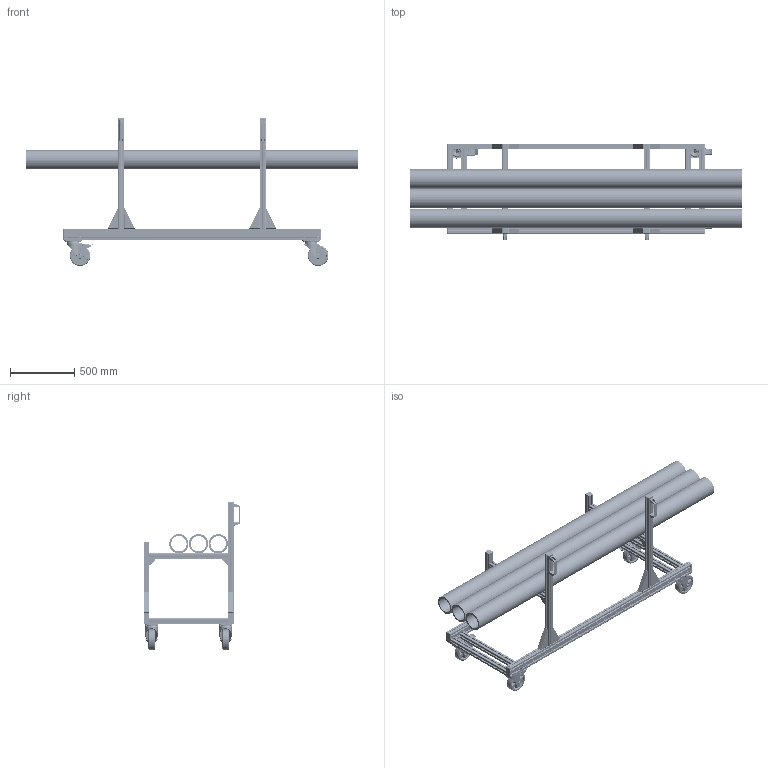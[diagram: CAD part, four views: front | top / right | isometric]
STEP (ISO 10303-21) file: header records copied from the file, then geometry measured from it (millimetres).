
FILE_DESCRIPTION(('STEP AP242'),'1');
FILE_NAME('ALD_CGL_200-70_060.stp','2026-01-14T13:58:10',(' '),(' '),'Spatial InterOp 3D',' ',' ');
FILE_SCHEMA(('AP242_MANAGED_MODEL_BASED_3D_ENGINEERING_MIM_LF {1 0 10303 442 1 1 4}'));
Length unit declared in the file: millimetre
Products named in the file (45): ALD_CGL_200-70_060; Pièce Jean-Baptiste MARTIN 1; M6-16 - DIN912; 45x45 - noir; Equerre 40 x 80x160; Cache équerre 40 x 80x160; Vis; Rondelle; Poignée standard - 152mm; Equerre 45/45; 45x45L; M8-20 - DIN 933 - Zn; 08 DIN 6798A - Zn; 08 - DIN125A; 45x90 - noir; M12-55 - DIN912 - Zn; orientable Ø160; Roue Ø160; Chape à platine Ø160 - Zn; orientable freinée Ø160; Chape à platine freinée Ø160 - Zn; 45x90L
Assembly tree (119 placements, depth 4):
  ALD_CGL_200-70_060
    Pièce Jean-Baptiste MARTIN 1
    M6-16 - DIN912  x4
    45x45 - noir  x4
    Equerre 40 x 80x160  x8
      Cache équerre 40 x 80x160
      Vis
      Vis
      Vis
      Vis
      Rondelle
      Rondelle
      Rondelle
      Rondelle
      Equerre 40 x 80x160
    Poignée standard - 152mm  x2
    Equerre 45/45  x4
    45x45L
    45x45L
    45x45L
    45x45L
    45x45L
    45x45L
    M8-20 - DIN 933 - Zn  x16
    08 DIN 6798A - Zn  x16
    08 - DIN125A  x16
    45x90 - noir  x4
    M12-55 - DIN912 - Zn  x8
    orientable Ø160  x2
      Roue Ø160
      Chape à platine Ø160 - Zn
        Chape à platine Ø160 - Zn
        Chape à platine Ø160 - Zn
    orientable freinée Ø160  x2
      Roue Ø160
      Chape à platine freinée Ø160 - Zn
        Chape à platine freinée Ø160 - Zn
        Chape à platine freinée Ø160 - Zn
        Chape à platine freinée Ø160 - Zn
        Chape à platine freinée Ø160 - Zn
    45x45L
    45x45L
    45x45L
    45x45L
    45x90L
    45x90L
Bounding box: 2580 x 753.42 x 1148.27 mm (x, y, z)
Volume: 61268844.4 mm3; surface area: 16176056.8 mm2
Topology: 185 solids, 185 shells, 15550 faces, 41288 edges, 26260 vertices
Faces by surface type: plane 7714, cylinder 5420, cone 866, torus 600, sphere 554, bspline 396
Full cylindrical faces by diameter (mm): 4 x8, 5 x8, 5.4 x48, 6 x8, 6.2 x4, 6.6 x96, 8 x56, 8.2 x16, 8.4 x16, 8.7 x48, 9.4 x32, 10 x4, 12 x24, 12.3 x12, 13 x4, 13.5 x8, 16 x16, 18 x8, 19 x4, 21.498 x2, 21.5 x2, 26.397 x2, 26.4 x2, 26.997 x2, 27 x2, 28 x8, 32.997 x2, 33 x2, 35.296 x2, 35.3 x2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
Entity records: 241369 total; most frequent: CARTESIAN_POINT 49846, ORIENTED_EDGE 30122, DIRECTION 29570, EDGE_CURVE 15061, AXIS2_PLACEMENT_3D 10378, VERTEX_POINT 10039, LINE 8814, VECTOR 8814
